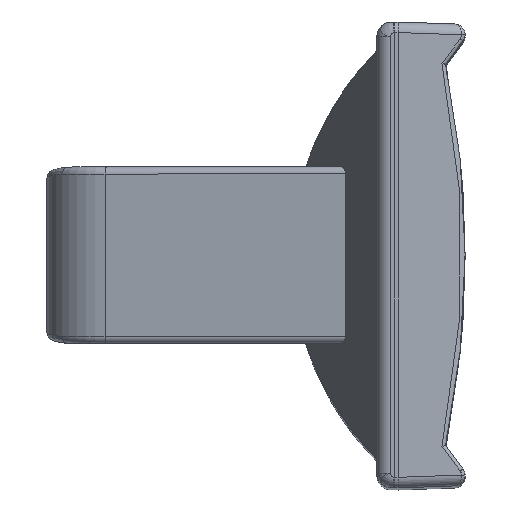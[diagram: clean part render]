
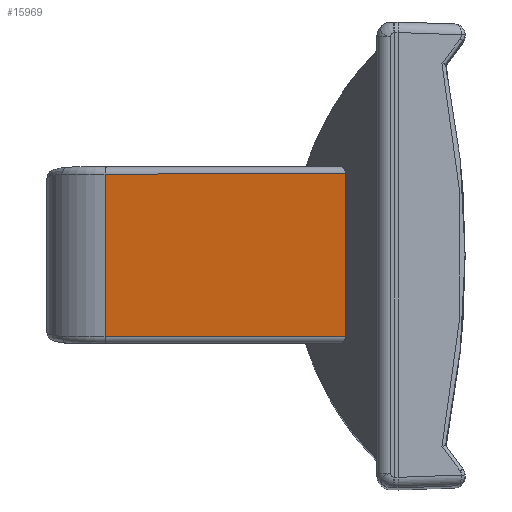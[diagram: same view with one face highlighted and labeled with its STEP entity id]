
A CAD part, top view. The second image highlights one B-rep face of the part: STEP entity #15969.
In plain terms, the highlighted planar face has unit normal (-0.174, 0, 0.985).
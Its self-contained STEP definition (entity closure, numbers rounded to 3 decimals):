
#3186=DIRECTION('',(-0.985,0.,-0.174));
#3187=VECTOR('',#3186,34.543);
#3188=CARTESIAN_POINT('',(-7.486,11.5,71.38));
#3189=LINE('',#3188,#3187);
#3190=DIRECTION('',(0.,-1.,0.));
#3191=VECTOR('',#3190,23.);
#3192=CARTESIAN_POINT('',(-7.486,11.5,71.38));
#3193=LINE('',#3192,#3191);
#3194=CARTESIAN_POINT('',(-7.486,-11.5,
71.38));
#3201=DIRECTION('',(0.985,0.,0.174));
#3202=VECTOR('',#3201,34.543);
#3203=CARTESIAN_POINT('',(-41.505,-11.5,65.381));
#3204=LINE('',#3203,#3202);
#3358=DIRECTION('',(0.,-1.,0.));
#3359=VECTOR('',#3358,23.);
#3360=CARTESIAN_POINT('',(-41.505,11.5,65.381));
#3361=LINE('',#3360,#3359);
#7437=VERTEX_POINT('',#3194);
#7438=CARTESIAN_POINT('',(-7.486,11.5,71.38));
#7439=VERTEX_POINT('',#7438);
#7863=CARTESIAN_POINT('',(-41.505,11.5,65.381));
#7864=VERTEX_POINT('',#7863);
#7865=CARTESIAN_POINT('',(-41.505,-11.5,65.381));
#7866=VERTEX_POINT('',#7865);
#15956=CARTESIAN_POINT('',(-7.244,12.5,71.422));
#15957=DIRECTION('',(-0.174,0.,0.985));
#15958=DIRECTION('',(-0.985,0.,-0.174));
#15959=AXIS2_PLACEMENT_3D('',#15956,#15957,#15958);
#15960=PLANE('',#15959);
#15961=ORIENTED_EDGE('',*,*,#10617,.T.);
#15963=ORIENTED_EDGE('',*,*,#15962,.F.);
#15965=ORIENTED_EDGE('',*,*,#15964,.F.);
#15966=ORIENTED_EDGE('',*,*,#15941,.F.);
#15967=EDGE_LOOP('',(#15961,#15963,#15965,#15966));
#15968=FACE_OUTER_BOUND('',#15967,.F.);
#10617=EDGE_CURVE('',#7439,#7437,#3193,.T.);
#15941=EDGE_CURVE('',#7439,#7864,#3189,.T.);
#15962=EDGE_CURVE('',#7866,#7437,#3204,.T.);
#15964=EDGE_CURVE('',#7864,#7866,#3361,.T.);
#15969=ADVANCED_FACE('',(#15968),#15960,.T.);
